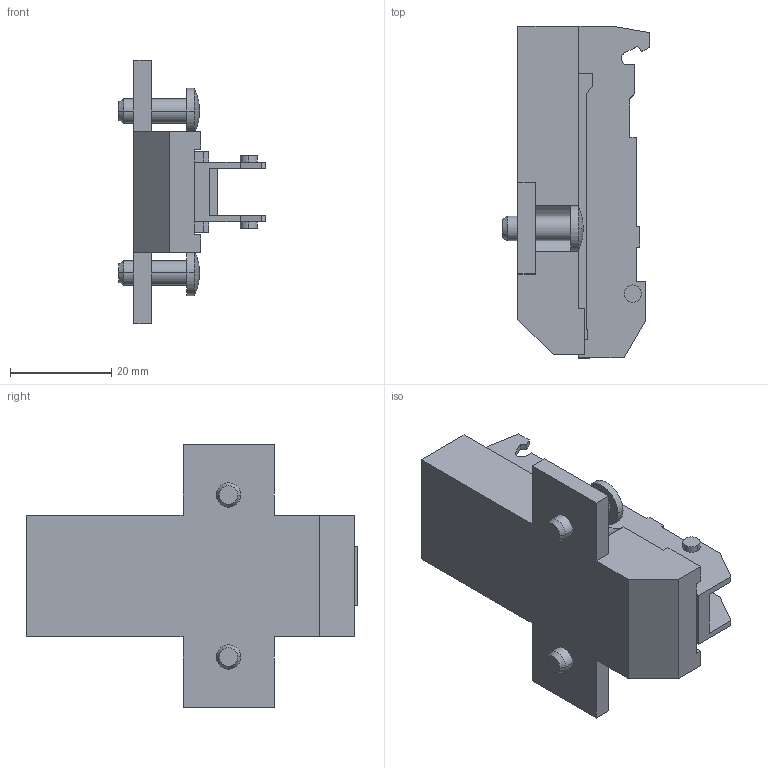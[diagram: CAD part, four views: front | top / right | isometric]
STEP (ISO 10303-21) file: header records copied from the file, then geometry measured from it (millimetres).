
FILE_DESCRIPTION (( 'STEP AP214' ), '1' );
FILE_NAME ('1D Kreuzmontageplatte_37_32_H15.5_Euro.STEP', '2011-08-18T14:03:36', ( '' ), ( '' ), 'SwSTEP 2.0', 'SolidWorks 2011', '' );
FILE_SCHEMA (( 'AUTOMOTIVE_DESIGN' ));
Length unit declared in the file: millimetre
Products named in the file (1): 1D Kreuzmontageplatte_37_32_H15.5_Euro
Bounding box: 29 x 65.55 x 52 mm (x, y, z)
Volume: 24570.8 mm3; surface area: 9949.7 mm2
Topology: 1 solids, 1 shells, 121 faces, 329 edges, 218 vertices
Faces by surface type: plane 93, cylinder 20, cone 4, sphere 4
Entity records: 3817 total; most frequent: CARTESIAN_POINT 669, ORIENTED_EDGE 658, DIRECTION 625, EDGE_CURVE 329, LINE 277, VECTOR 277, VERTEX_POINT 218, AXIS2_PLACEMENT_3D 174
